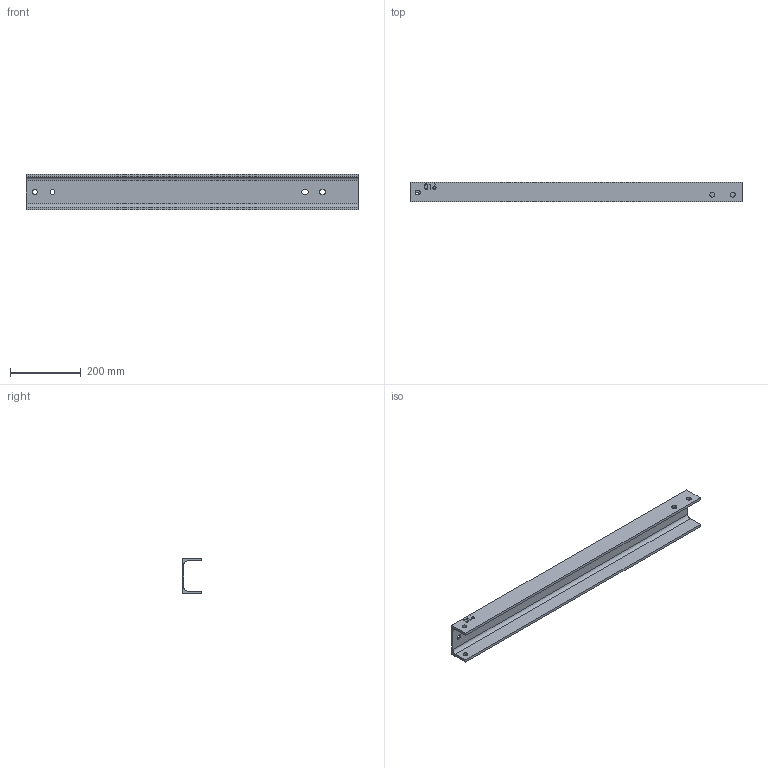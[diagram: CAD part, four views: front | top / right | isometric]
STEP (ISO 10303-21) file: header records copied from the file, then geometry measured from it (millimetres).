
FILE_DESCRIPTION (( 'STEP AP214' ), '1' );
FILE_NAME ('CCJ029-REP.016 - POUTRE B3-B4.STEP', '2024-01-31T08:51:45', ( '' ), ( '' ), 'SwSTEP 2.0', 'SolidWorks 2021', '' );
FILE_SCHEMA (( 'AUTOMOTIVE_DESIGN' ));
Length unit declared in the file: millimetre
Products named in the file (1): CCJ029-REP.016 - POUTRE B3-B4
Bounding box: 940 x 55 x 100 mm (x, y, z)
Volume: 1167441.3 mm3; surface area: 380356 mm2
Topology: 1 solids, 1 shells, 64 faces, 171 edges, 114 vertices
Faces by surface type: plane 28, cylinder 18, bspline 18
Entity records: 3269 total; most frequent: CARTESIAN_POINT 1688, ORIENTED_EDGE 342, DIRECTION 265, EDGE_CURVE 171, VERTEX_POINT 114, LINE 99, VECTOR 99, EDGE_LOOP 85
